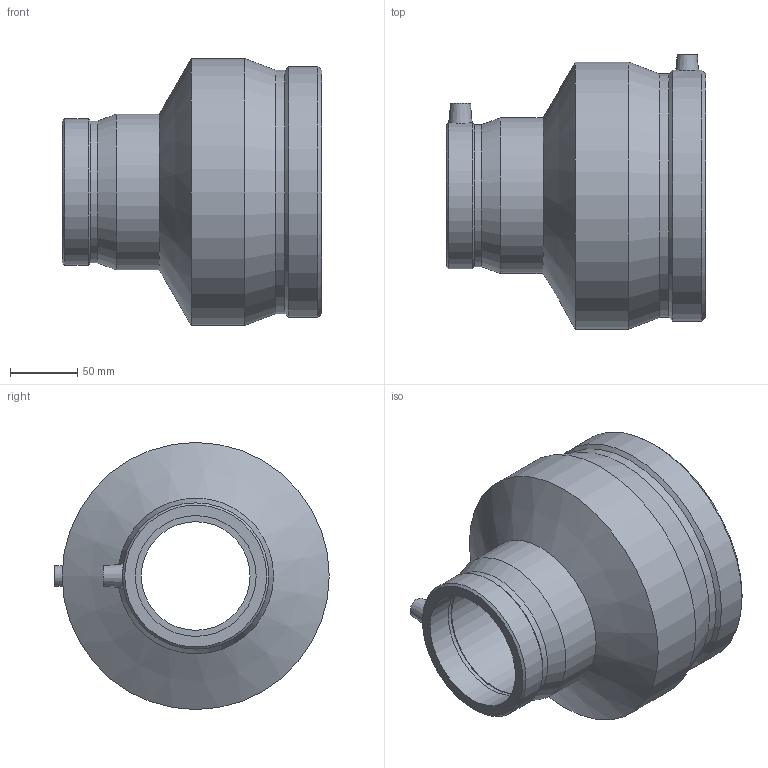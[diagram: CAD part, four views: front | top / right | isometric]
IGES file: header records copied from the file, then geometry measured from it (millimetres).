
Global section: file name: 491104160090.ipt; native system: Autodesk Inventor 2015; preprocessor: unknown; author: KIM; date: 20171106.093740; units: millimetre
Bounding box: 193 x 204.5 x 199 mm (x, y, z)
Volume: 1348294.3 mm3; surface area: 209458.9 mm2
Topology: 1 solids, 1 shells, 39 faces, 87 edges, 58 vertices
Faces by surface type: plane 12, revolution 10, cone 9, cylinder 8
Full cylindrical faces by diameter (mm): 4 x2, 105.769 x1, 109.04 x1, 116 x1, 181.448 x1, 187.06 x1, 199 x1
